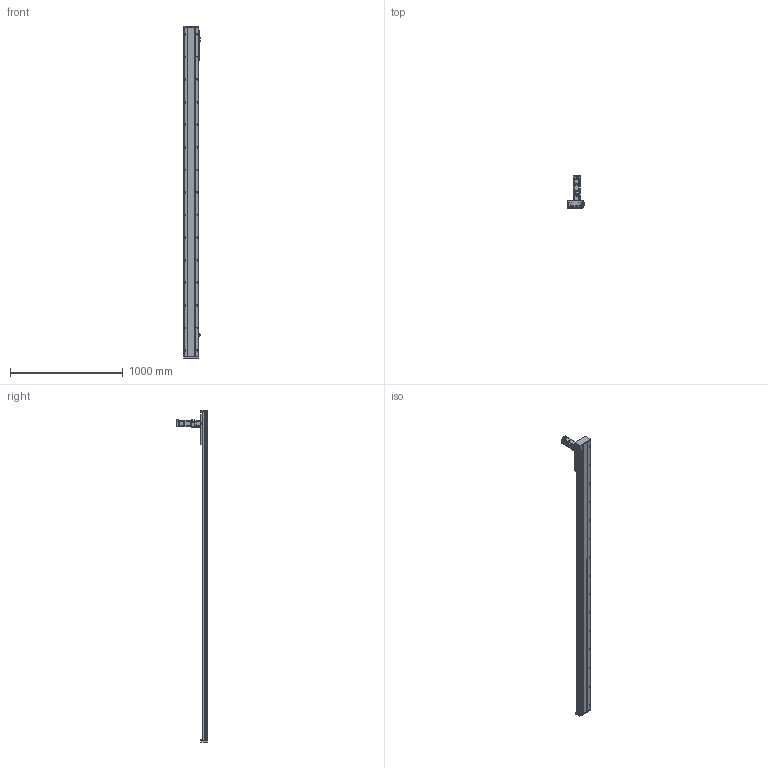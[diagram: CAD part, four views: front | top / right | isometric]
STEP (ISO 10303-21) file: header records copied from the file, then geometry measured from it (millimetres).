
FILE_DESCRIPTION (( 'STEP AP214' ), '1' );
FILE_NAME ('SHS140-S2600.STEP', '2022-12-05T08:40:31', ( '' ), ( '' ), 'SwSTEP 2.0', 'SolidWorks 2020', '' );
FILE_SCHEMA (( 'AUTOMOTIVE_DESIGN' ));
Length unit declared in the file: millimetre
Products named in the file (10): SHS140-S2600.step; SHS140______.step; SHS140-DZ-2600.step; _SXR24-100_b.step; SB-62-3-P1-C20604_203.step; SGMJV-04ADA6E.step; 錨璃186^SHS140-S2600; SHS140____.step; EE-SX672.step; SHS140-S2600
Assembly tree (16 placements, depth 3):
  SHS140-S2600
    SHS140-S2600.step
      SHS140-DZ-2600.step
      SHS140______.step
      SHS140____.step
      _SXR24-100_b.step  x6
      SB-62-3-P1-C20604_203.step
      SGMJV-04ADA6E.step
      EE-SX672.step  x3
    錨璃186^SHS140-S2600
Bounding box: 151.2 x 280.6 x 2940 mm (x, y, z)
Volume: 10120466.9 mm3; surface area: 2705621.5 mm2
Topology: 107 solids, 107 shells, 4380 faces, 11762 edges, 7655 vertices
Faces by surface type: plane 2360, cylinder 1303, bspline 406, cone 299, torus 12
Entity records: 131467 total; most frequent: CARTESIAN_POINT 46609, ORIENTED_EDGE 18130, DIRECTION 16042, EDGE_CURVE 9065, VERTEX_POINT 5935, LINE 5504, VECTOR 5504, AXIS2_PLACEMENT_3D 5269
